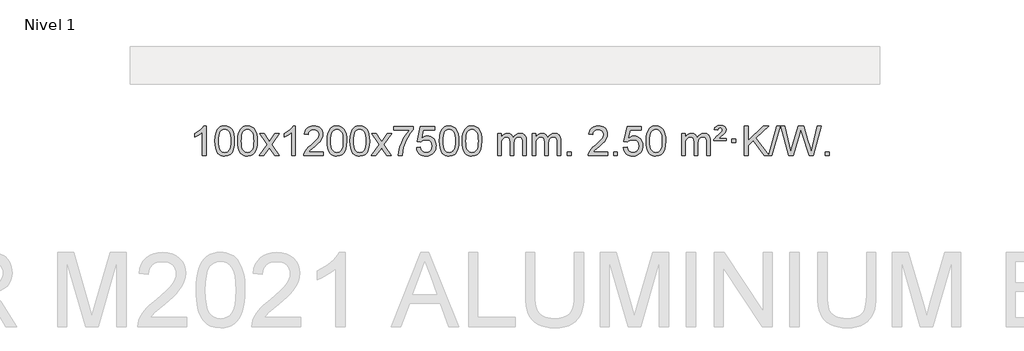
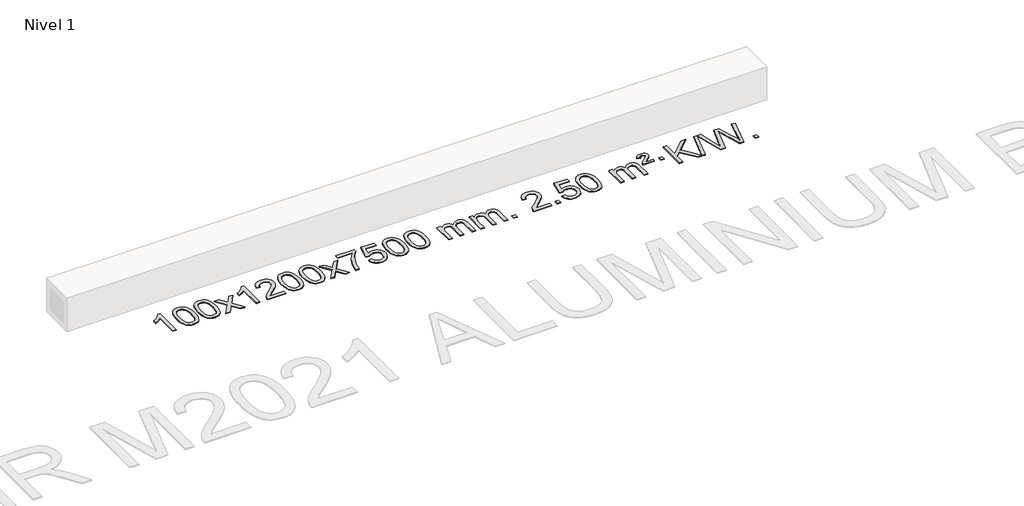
# One storey, part 2 of 3: 1 proxy.
"""IFC4 building model written with IfcOpenShell, lengths in millimetres."""

import ifcopenshell
import ifcopenshell.guid

model = None  # the IFC model being written
_history = None  # IfcOwnerHistory: only IFC2X3 demands one
_inside = {}  # id of a spatial element -> (the spatial element, [elements in it])
_under = {}  # id of a project, library or spatial element -> (it, [spatial elements below it])
_declared = {}  # id of a project -> (the project, [libraries it declares])
_typed = {}  # id of a type object -> (the type object, [elements of that type])
_made_of = {}  # id of a material, layer set ... -> (it, [elements and type objects made of it])


def new_model(schema):
    """Start an empty IFC model of exactly this schema.

    Asked for "IFC4X3", IfcOpenShell would pick the latest addendum, in which some entities
    have other attributes; the version numbers below select the first issue.
    IFC2X3 requires an IfcOwnerHistory on every rooted entity: one is made here for all.
    """
    global model, _history
    if schema == "IFC4X3":
        model = ifcopenshell.file(schema_version=(4, 3, 0, 0))
    else:
        model = ifcopenshell.file(schema=schema)
    _inside.clear()
    _under.clear()
    _declared.clear()
    _typed.clear()
    _made_of.clear()
    _history = None
    if model.schema == "IFC2X3":
        org = make("IfcOrganization", Name="unknown")
        user = make(
            "IfcPersonAndOrganization",
            ThePerson=make("IfcPerson", FamilyName="unknown"),
            TheOrganization=org,
        )
        app = make(
            "IfcApplication",
            ApplicationDeveloper=org,
            Version="unknown",
            ApplicationFullName="unknown",
            ApplicationIdentifier="unknown",
        )
        _history = make(
            "IfcOwnerHistory",
            OwningUser=user,
            OwningApplication=app,
            ChangeAction="ADDED",
            CreationDate=0,
        )
    return model


def make(cls, **values):
    """One entity of the class cls with the attributes given. An attribute that is None is left unset."""
    return model.create_entity(
        cls, **{name: value for name, value in values.items() if value is not None}
    )


def rooted(cls, **values):
    """An entity with a GlobalId (a new one), such as an element, a storey or a relation."""
    return make(cls, GlobalId=ifcopenshell.guid.new(), OwnerHistory=_history, **values)


def si_unit(unit_type, name, prefix=None):
    """IfcSIUnit, for example si_unit("LENGTHUNIT", "METRE", prefix="MILLI")."""
    return make("IfcSIUnit", UnitType=unit_type, Prefix=prefix, Name=name)


def assignment(units):
    """IfcUnitAssignment: the units of a project."""
    return None if units is None else make("IfcUnitAssignment", Units=units)


def point(xyz):
    """IfcCartesianPoint."""
    return None if xyz is None else make("IfcCartesianPoint", Coordinates=xyz)


def direction(xyz):
    """IfcDirection."""
    return None if xyz is None else make("IfcDirection", DirectionRatios=xyz)


def frame(location, z_axis=None, x_axis=None):
    """IfcAxis2Placement3D, a coordinate frame: its origin and axes. An axis left out is left unset."""
    return make(
        "IfcAxis2Placement3D",
        Location=point(location),
        Axis=direction(z_axis),
        RefDirection=direction(x_axis),
    )


def origin():
    """The frame at (0, 0, 0) with its axes left unset."""
    return frame((0.0, 0.0, 0.0))


def origin_with_axes():
    """The frame at (0, 0, 0) with the z axis (0, 0, 1) and the x axis (1, 0, 0) written out."""
    return frame((0.0, 0.0, 0.0), z_axis=(0.0, 0.0, 1.0), x_axis=(1.0, 0.0, 0.0))


def place(relative_to, where):
    """IfcLocalPlacement: puts the frame where relative to a parent placement (None: the world)."""
    return make(
        "IfcLocalPlacement", PlacementRelTo=relative_to, RelativePlacement=where
    )


def context(
    kind, dimensions, precision=None, world=None, true_north=None, identifier=None
):
    """IfcGeometricRepresentationContext, for example the 3D "Model" context."""
    return make(
        "IfcGeometricRepresentationContext",
        ContextIdentifier=identifier,
        ContextType=kind,
        CoordinateSpaceDimension=dimensions,
        Precision=precision,
        WorldCoordinateSystem=world,
        TrueNorth=true_north,
    )


def project(units=None, contexts=None):
    """IfcProject with its units and contexts."""
    return rooted(
        "IfcProject",
        Name="project",
        RepresentationContexts=contexts,
        UnitsInContext=assignment(units),
    )


def spatial(cls, under=None, at=None, **own):
    """A site, building, storey or space (cls), placed at a placement, below another one or the project."""
    s = rooted(cls, ObjectPlacement=at, **own)
    if under is not None:
        _under.setdefault(under.id(), (under, []))[1].append(s)
    return s


def polyline(points):
    """IfcPolyline through the points."""
    return make("IfcPolyline", Points=[point(p) for p in points])


def outline(outer, holes=None, kind="AREA"):
    """IfcArbitraryClosedProfileDef: a profile drawn as a closed curve; with holes, ...WithVoids."""
    if holes is None:
        return make("IfcArbitraryClosedProfileDef", ProfileType=kind, OuterCurve=outer)
    return make(
        "IfcArbitraryProfileDefWithVoids",
        ProfileType=kind,
        OuterCurve=outer,
        InnerCurves=holes,
    )


def extrude(swept, where, along, depth):
    """IfcExtrudedAreaSolid: the profile swept, set in the frame where, extruded along a direction by depth."""
    return make(
        "IfcExtrudedAreaSolid",
        SweptArea=swept,
        Position=where,
        ExtrudedDirection=direction(along),
        Depth=depth,
    )


def shape(context_of_items, identifier, shape_type, items):
    """IfcShapeRepresentation: the items that make up one representation, for example the "Body"."""
    return make(
        "IfcShapeRepresentation",
        ContextOfItems=context_of_items,
        RepresentationIdentifier=identifier,
        RepresentationType=shape_type,
        Items=items,
    )


def made_of(thing, what):
    """Note that an element or type object is made of a material, layer set ...; save() writes the relation."""
    if what is not None:
        _made_of.setdefault(what.id(), (what, []))[1].append(thing)
    return thing


def element(
    cls,
    number,
    at=None,
    inside=None,
    cuts=None,
    type_object=None,
    material=None,
    context=None,
    identifier="Body",
    shape_type=None,
    held_by="IfcProductDefinitionShape",
    body=None,
    shapes=None,
    **own,
):
    """One element of the class cls, such as IfcWall. Its Tag is "e" and its number.

    at: its placement. inside: the storey or other place that contains it. cuts: it is an
    opening in that element (IfcRelVoidsElement). A single representation is given by context,
    identifier, shape_type and body (its items); several are given by shapes. held_by: the class
    of the entity that holds the representations. save() writes the other relations.
    """
    e = rooted(cls, Tag="e%d" % number, ObjectPlacement=at, **own)
    if body is not None:
        shapes = [shape(context, identifier, shape_type, body)]
    if shapes is not None:
        e.Representation = make(held_by, Representations=shapes)
    if inside is not None:
        _inside.setdefault(inside.id(), (inside, []))[1].append(e)
    if cuts is not None:
        rooted(
            "IfcRelVoidsElement", RelatingBuildingElement=cuts, RelatedOpeningElement=e
        )
    if type_object is not None:
        _typed.setdefault(type_object.id(), (type_object, []))[1].append(e)
    return made_of(e, material)


def aggregate(whole, parts):
    """IfcRelAggregates: a whole, such as a stair, and the parts it consists of."""
    return rooted("IfcRelAggregates", RelatingObject=whole, RelatedObjects=parts)


def save(model, path):
    """Write the relations noted so far, then the file.

    IfcRelAggregates (storeys below a building ...), IfcRelContainedInSpatialStructure (elements
    in a storey), IfcRelDefinesByType, IfcRelAssociatesMaterial and IfcRelDeclares: one each for
    every whole, place, type object, material and project.
    """
    for whole, parts in _under.values():
        aggregate(whole, parts)
    for where, things in _inside.values():
        rooted(
            "IfcRelContainedInSpatialStructure",
            RelatedElements=things,
            RelatingStructure=where,
        )
    for kind, things in _typed.values():
        rooted("IfcRelDefinesByType", RelatedObjects=things, RelatingType=kind)
    for what, things in _made_of.values():
        rooted("IfcRelAssociatesMaterial", RelatedObjects=things, RelatingMaterial=what)
    for by, libraries in _declared.values():
        rooted("IfcRelDeclares", RelatingContext=by, RelatedDefinitions=libraries)
    model.write(path)


model = new_model("IFC4")

# Units and contexts
model_context = context("Model", 3, world=origin())
ifc_project = project(units=[si_unit("LENGTHUNIT", "METRE", prefix="MILLI")], contexts=[model_context])

# Site, building, storey
site = spatial("IfcSite", under=ifc_project)
building = spatial("IfcBuilding", under=site)
storey = spatial("IfcBuildingStorey", under=building, Name="Nivel 1", Elevation=0.0)

# Proxy
placement = place(None, origin())
element("IfcBuildingElementProxy", 1, Name="Texto de modelo 1", ObjectType="Texto de modelo 1", at=placement, inside=storey, context=model_context, shape_type="SweptSolid", body=[
    extrude(outline(polyline([(-18976.6113821, -1016.3248037), (-19026.8395372, -1016.3248037), (-19026.8395372, -703.1836494), (-19047.8088109, -720.1430094), (-19074.4189419, -737.0778439), (-19127.2958474, -762.4371761), (-19127.2958474, -714.9558732), (-19087.8466348, -693.4960902), (-19053.6703974, -667.9650797), (-19026.7291726, -640.8153885), (-19008.9849977, -614.4995631), (-18976.6113821, -614.4995631), (-18976.6113821, -1016.3248037)])), origin_with_axes(), (0.0, 0.0, 1.0), 10.0),
    extrude(outline(polyline([(-18857.3195138, -818.649545), (-18853.6284312, -754.3315095), (-18842.5551831, -703.0364966), (-18824.2101343, -663.9796914), (-18812.3520713, -648.7463112), (-18798.7036493, -636.3762791), (-18783.218883, -626.8052158), (-18765.8517871, -619.9687421), (-18725.4706068, -614.4995631), (-18694.5194682, -617.7369247), (-18666.8056913, -627.4490093), (-18643.6291256, -643.2556724), (-18626.2896209, -664.7767691), (-18613.1930218, -691.8283585), (-18602.7451732, -724.2264995), (-18595.9025681, -765.3679693), (-18593.6216997, -818.649545), (-18597.2759942, -882.5996984), (-18608.2388776, -933.772084), (-18626.4735619, -972.8656773), (-18638.3040337, -988.1450429), (-18651.9432587, -1000.5794543), (-18667.4464191, -1010.2148969), (-18684.8686972, -1017.0973559), (-18725.4706068, -1022.6033231), (-18753.1353328, -1020.2120901), (-18777.6607992, -1013.0383912), (-18799.0470058, -1001.0822264), (-18817.2939528, -984.3435956), (-18834.8051357, -954.0853015), (-18847.3131236, -916.3835283), (-18854.8179163, -871.2382762), (-18857.3195138, -818.649545)]), holes=[polyline([(-18807.0913588, -818.5514431), (-18805.6198308, -862.2159702), (-18801.2052468, -897.5602329), (-18793.8476069, -924.5842311), (-18783.5469111, -943.2879649), (-18771.0879742, -956.0136163), (-18757.2556112, -965.1033672), (-18742.049822, -970.5572178), (-18725.4706068, -972.375168), (-18708.8913915, -970.5510864), (-18693.6856024, -965.0788418), (-18679.8532394, -955.958434), (-18667.3943025, -943.1898631), (-18657.0936066, -924.4554724), (-18649.7359667, -897.4376056), (-18645.3213828, -862.1362625), (-18643.8498548, -818.5514431), (-18645.2723318, -776.0426785), (-18649.539763, -741.3207496), (-18656.6521482, -714.3856562), (-18666.6094875, -695.2373983), (-18678.859958, -681.8894132), (-18692.8517365, -672.3551382), (-18708.5848232, -666.6345732), (-18726.059218, -664.7277182), (-18742.5525941, -666.4077126), (-18757.5008658, -671.4476959), (-18770.9040332, -679.8476682), (-18782.7620962, -691.6076293), (-18793.4061486, -712.4542757), (-18801.0090431, -740.5604601), (-18805.5707799, -775.9261826), (-18807.0913588, -818.5514431)])]), origin_with_axes(), (0.0, 0.0, 1.0), 10.0),
    extrude(outline(polyline([(-18549.672064, -818.649545), (-18545.9809813, -754.3315095), (-18534.9077333, -703.0364966), (-18516.5626844, -663.9796914), (-18504.7046215, -648.7463112), (-18491.0561994, -636.3762791), (-18475.5714331, -626.8052158), (-18458.2043373, -619.9687421), (-18417.8231569, -614.4995631), (-18386.8720184, -617.7369247), (-18359.1582414, -627.4490093), (-18335.9816757, -643.2556724), (-18318.642171, -664.7767691), (-18305.545572, -691.8283585), (-18295.0977234, -724.2264995), (-18288.2551182, -765.3679693), (-18285.9742499, -818.649545), (-18289.6285444, -882.5996984), (-18300.5914278, -933.772084), (-18318.826112, -972.8656773), (-18330.6565839, -988.1450429), (-18344.2958088, -1000.5794543), (-18359.7989693, -1010.2148969), (-18377.2212474, -1017.0973559), (-18417.8231569, -1022.6033231), (-18445.487883, -1020.2120901), (-18470.0133493, -1013.0383912), (-18491.399556, -1001.0822264), (-18509.6465029, -984.3435956), (-18527.1576859, -954.0853015), (-18539.6656737, -916.3835283), (-18547.1704664, -871.2382762), (-18549.672064, -818.649545)]), holes=[polyline([(-18499.4439089, -818.5514431), (-18497.972381, -862.2159702), (-18493.557797, -897.5602329), (-18486.2001571, -924.5842311), (-18475.8994612, -943.2879649), (-18463.4405243, -956.0136163), (-18449.6081613, -965.1033672), (-18434.4023722, -970.5572178), (-18417.8231569, -972.375168), (-18401.2439417, -970.5510864), (-18386.0381526, -965.0788418), (-18372.2057895, -955.958434), (-18359.7468526, -943.1898631), (-18349.4461568, -924.4554724), (-18342.0885169, -897.4376056), (-18337.6739329, -862.1362625), (-18336.2024049, -818.5514431), (-18337.624882, -776.0426785), (-18341.8923131, -741.3207496), (-18349.0046984, -714.3856562), (-18358.9620377, -695.2373983), (-18371.2125082, -681.8894132), (-18385.2042867, -672.3551382), (-18400.9373734, -666.6345732), (-18418.4117681, -664.7277182), (-18434.9051443, -666.4077126), (-18449.853416, -671.4476959), (-18463.2565833, -679.8476682), (-18475.1146463, -691.6076293), (-18485.7586987, -712.4542757), (-18493.3615933, -740.5604601), (-18497.92333, -775.9261826), (-18499.4439089, -818.5514431)])]), origin_with_axes(), (0.0, 0.0, 1.0), 10.0),
    extrude(outline(polyline([(-18260.8601723, -1016.3248037), (-18153.5367316, -867.9947832), (-18254.5816529, -721.2343926), (-18194.1509039, -721.2343926), (-18145.3942768, -791.8677357), (-18122.634644, -825.2223699), (-18102.9161691, -797.9500514), (-18047.3905133, -721.2343926), (-17986.9597642, -721.2343926), (-18093.1059825, -867.9947832), (-17990.8838388, -1016.3248037), (-18051.3145879, -1016.3248037), (-18112.8244575, -927.1502081), (-18124.106172, -910.8652984), (-18200.4294233, -1016.3248037), (-18260.8601723, -1016.3248037)])), origin_with_axes(), (0.0, 0.0, 1.0), 10.0),
    extrude(outline(polyline([(-17771.1356604, -1016.3248037), (-17821.3638154, -1016.3248037), (-17821.3638154, -703.1836494), (-17842.3330892, -720.1430094), (-17868.9432201, -737.0778439), (-17921.8201256, -762.4371761), (-17921.8201256, -714.9558732), (-17882.370913, -693.4960902), (-17848.1946756, -667.9650797), (-17821.2534508, -640.8153885), (-17803.5092759, -614.4995631), (-17771.1356604, -614.4995631), (-17771.1356604, -1016.3248037)])), origin_with_axes(), (0.0, 0.0, 1.0), 10.0),
    extrude(outline(polyline([(-17394.4244973, -966.0966486), (-17394.4244973, -1016.3248037), (-17658.1223114, -1016.3248037), (-17657.0186654, -998.6419425), (-17652.7267088, -981.6948452), (-17640.3413483, -954.6309931), (-17622.2170287, -928.3764814), (-17595.9993052, -900.8956963), (-17559.333733, -870.1530243), (-17505.1324524, -822.0095338), (-17472.611684, -786.4721331), (-17456.3512998, -757.6301847), (-17450.9311718, -729.5730512), (-17456.0447315, -704.4221855), (-17471.3854107, -683.5142254), (-17494.9666466, -669.424345), (-17524.8018764, -664.7277182), (-17556.1331596, -669.3139804), (-17580.474685, -683.072767), (-17596.1832462, -704.9249575), (-17601.615637, -733.7914314), (-17651.8437921, -727.512912), (-17647.5242443, -701.5833627), (-17639.666898, -678.9279632), (-17628.2717532, -659.5467134), (-17613.3388099, -643.4396134), (-17595.2114246, -630.7783414), (-17574.2329538, -621.7345757), (-17550.4033976, -616.3083162), (-17523.7227559, -614.4995631), (-17496.8029909, -616.5106513), (-17472.8446759, -622.5439161), (-17451.8478111, -632.5993573), (-17433.8123962, -646.6769749), (-17419.3270427, -663.7344368), (-17408.9803616, -682.7294105), (-17402.7723529, -703.661896), (-17400.7030167, -726.5318934), (-17402.9348341, -750.5545876), (-17409.6302864, -774.160349), (-17421.5128749, -798.1707806), (-17439.3061007, -823.4074854), (-17467.6698025, -853.5370208), (-17511.263819, -892.225944), (-17569.0458177, -940.5411127), (-17591.7073486, -966.0966486), (-17394.4244973, -966.0966486)])), origin_with_axes(), (0.0, 0.0, 1.0), 10.0),
    extrude(outline(polyline([(-17344.1963422, -818.649545), (-17340.5052595, -754.3315095), (-17329.4320115, -703.0364966), (-17311.0869627, -663.9796914), (-17299.2288997, -648.7463112), (-17285.5804777, -636.3762791), (-17270.0957113, -626.8052158), (-17252.7286155, -619.9687421), (-17212.3474351, -614.4995631), (-17181.3962966, -617.7369247), (-17153.6825196, -627.4490093), (-17130.505954, -643.2556724), (-17113.1664492, -664.7767691), (-17100.0698502, -691.8283585), (-17089.6220016, -724.2264995), (-17082.7793964, -765.3679693), (-17080.4985281, -818.649545), (-17084.1528226, -882.5996984), (-17095.115706, -933.772084), (-17113.3503902, -972.8656773), (-17125.1808621, -988.1450429), (-17138.820087, -1000.5794543), (-17154.3232475, -1010.2148969), (-17171.7455256, -1017.0973559), (-17212.3474351, -1022.6033231), (-17240.0121612, -1020.2120901), (-17264.5376275, -1013.0383912), (-17285.9238342, -1001.0822264), (-17304.1707811, -984.3435956), (-17321.6819641, -954.0853015), (-17334.1899519, -916.3835283), (-17341.6947446, -871.2382762), (-17344.1963422, -818.649545)]), holes=[polyline([(-17293.9681871, -818.5514431), (-17292.4966592, -862.2159702), (-17288.0820752, -897.5602329), (-17280.7244353, -924.5842311), (-17270.4237395, -943.2879649), (-17257.9648025, -956.0136163), (-17244.1324395, -965.1033672), (-17228.9266504, -970.5572178), (-17212.3474351, -972.375168), (-17195.7682199, -970.5510864), (-17180.5624308, -965.0788418), (-17166.7300677, -955.958434), (-17154.2711308, -943.1898631), (-17143.970435, -924.4554724), (-17136.6127951, -897.4376056), (-17132.1982111, -862.1362625), (-17130.7266831, -818.5514431), (-17132.1491602, -776.0426785), (-17136.4165913, -741.3207496), (-17143.5289766, -714.3856562), (-17153.4863159, -695.2373983), (-17165.7367864, -681.8894132), (-17179.7285649, -672.3551382), (-17195.4616516, -666.6345732), (-17212.9360463, -664.7277182), (-17229.4294225, -666.4077126), (-17244.3776942, -671.4476959), (-17257.7808616, -679.8476682), (-17269.6389245, -691.6076293), (-17280.2829769, -712.4542757), (-17287.8858715, -740.5604601), (-17292.4476082, -775.9261826), (-17293.9681871, -818.5514431)])]), origin_with_axes(), (0.0, 0.0, 1.0), 10.0),
    extrude(outline(polyline([(-17036.5488924, -818.649545), (-17032.8578097, -754.3315095), (-17021.7845616, -703.0364966), (-17003.4395128, -663.9796914), (-16991.5814498, -648.7463112), (-16977.9330278, -636.3762791), (-16962.4482615, -626.8052158), (-16945.0811656, -619.9687421), (-16904.6999853, -614.4995631), (-16873.7488468, -617.7369247), (-16846.0350698, -627.4490093), (-16822.8585041, -643.2556724), (-16805.5189994, -664.7767691), (-16792.4224004, -691.8283585), (-16781.9745517, -724.2264995), (-16775.1319466, -765.3679693), (-16772.8510782, -818.649545), (-16776.5053727, -882.5996984), (-16787.4682562, -933.772084), (-16805.7029404, -972.8656773), (-16817.5334122, -988.1450429), (-16831.1726372, -1000.5794543), (-16846.6757976, -1010.2148969), (-16864.0980758, -1017.0973559), (-16904.6999853, -1022.6033231), (-16932.3647113, -1020.2120901), (-16956.8901777, -1013.0383912), (-16978.2763843, -1001.0822264), (-16996.5233313, -984.3435956), (-17014.0345143, -954.0853015), (-17026.5425021, -916.3835283), (-17034.0472948, -871.2382762), (-17036.5488924, -818.649545)]), holes=[polyline([(-16986.3207373, -818.5514431), (-16984.8492093, -862.2159702), (-16980.4346254, -897.5602329), (-16973.0769855, -924.5842311), (-16962.7762896, -943.2879649), (-16950.3173527, -956.0136163), (-16936.4849897, -965.1033672), (-16921.2792006, -970.5572178), (-16904.6999853, -972.375168), (-16888.1207701, -970.5510864), (-16872.9149809, -965.0788418), (-16859.0826179, -955.958434), (-16846.623681, -943.1898631), (-16836.3229851, -924.4554724), (-16828.9653452, -897.4376056), (-16824.5507613, -862.1362625), (-16823.0792333, -818.5514431), (-16824.5017104, -776.0426785), (-16828.7691415, -741.3207496), (-16835.8815267, -714.3856562), (-16845.8388661, -695.2373983), (-16858.0893365, -681.8894132), (-16872.0811151, -672.3551382), (-16887.8142017, -666.6345732), (-16905.2885965, -664.7277182), (-16921.7819726, -666.4077126), (-16936.7302444, -671.4476959), (-16950.1334117, -679.8476682), (-16961.9914747, -691.6076293), (-16972.6355271, -712.4542757), (-16980.2384217, -740.5604601), (-16984.8001584, -775.9261826), (-16986.3207373, -818.5514431)])]), origin_with_axes(), (0.0, 0.0, 1.0), 10.0),
    extrude(outline(polyline([(-16747.7370007, -1016.3248037), (-16640.41356, -867.9947832), (-16741.4584813, -721.2343926), (-16681.0277322, -721.2343926), (-16632.2711052, -791.8677357), (-16609.5114724, -825.2223699), (-16589.7929974, -797.9500514), (-16534.2673416, -721.2343926), (-16473.8365926, -721.2343926), (-16579.9828109, -867.9947832), (-16477.7606672, -1016.3248037), (-16538.1914163, -1016.3248037), (-16599.7012858, -927.1502081), (-16610.9830004, -910.8652984), (-16687.3062516, -1016.3248037), (-16747.7370007, -1016.3248037)])), origin_with_axes(), (0.0, 0.0, 1.0), 10.0),
    extrude(outline(polyline([(-16446.3680703, -671.0062376), (-16446.3680703, -620.7780825), (-16182.6702561, -620.7780825), (-16182.6702561, -661.3922547), (-16220.2555333, -708.9593967), (-16257.4729285, -769.4514595), (-16290.3002652, -837.350213), (-16314.7153669, -907.1374275), (-16326.6837945, -959.3521454), (-16333.3547213, -1016.3248037), (-16383.5828764, -1016.3248037), (-16378.1504856, -964.5515442), (-16363.6191468, -903.0171492), (-16340.3812674, -837.7916714), (-16308.829255, -774.9451639), (-16271.9920045, -718.1319211), (-16232.8984112, -671.0062376), (-16446.3680703, -671.0062376)])), origin_with_axes(), (0.0, 0.0, 1.0), 10.0),
    extrude(outline(polyline([(-16138.7206204, -909.5899742), (-16088.4924653, -903.3114548), (-16079.27089, -933.4655156), (-16063.1821841, -955.0601888), (-16040.299924, -968.0464232), (-16010.6976861, -972.375168), (-15991.5678224, -970.8699175), (-15974.6943015, -966.354166), (-15960.0771236, -958.8279135), (-15947.7162885, -948.2911601), (-15937.8877079, -935.2650717), (-15930.8672931, -920.2708148), (-15925.2509614, -884.3777948), (-15930.5116739, -850.5817021), (-15937.0875645, -836.6635), (-15946.2938115, -824.7318606), (-15958.1610715, -815.1607974), (-15972.7200015, -808.3243236), (-16009.9128712, -802.8551446), (-16034.278922, -805.0379111), (-16054.0096597, -811.5862106), (-16069.7672718, -821.6171264), (-16082.213946, -834.2477415), (-16132.442101, -827.9692222), (-16088.4924653, -620.7780825), (-15893.8583644, -620.7780825), (-15893.8583644, -671.0062376), (-16047.8782931, -671.0062376), (-16069.3626016, -781.6651417), (-16051.6368208, -768.9609501), (-16033.4818443, -759.8865276), (-16014.8976722, -754.4418741), (-15995.8843044, -752.6269896), (-15971.4232174, -754.8772011), (-15948.9548246, -761.6278357), (-15928.4791259, -772.8788934), (-15909.9961213, -788.6303741), (-15894.695296, -807.9196534), (-15883.766135, -829.7841067), (-15877.2086385, -854.2237339), (-15875.0228063, -881.2385351), (-15876.990975, -907.2600549), (-15882.895481, -931.4666901), (-15892.7363243, -953.8584409), (-15906.5135051, -974.4353072), (-15927.3846769, -995.5088141), (-15951.738465, -1010.5613191), (-15979.5748693, -1019.5928221), (-16010.8938898, -1022.6033231), (-16036.8142421, -1020.6688769), (-16060.2268654, -1014.8655384), (-16081.1317598, -1005.1933077), (-16099.5289252, -991.6521846), (-16114.8358819, -974.9166195), (-16126.47015, -955.6610627), (-16134.4317295, -933.8855143), (-16138.7206204, -909.5899742)])), origin_with_axes(), (0.0, 0.0, 1.0), 10.0),
    extrude(outline(polyline([(-15831.0731706, -818.649545), (-15827.3820879, -754.3315095), (-15816.3088398, -703.0364966), (-15797.963791, -663.9796914), (-15786.105728, -648.7463112), (-15772.457306, -636.3762791), (-15756.9725397, -626.8052158), (-15739.6054439, -619.9687421), (-15699.2242635, -614.4995631), (-15668.273125, -617.7369247), (-15640.559348, -627.4490093), (-15617.3827823, -643.2556724), (-15600.0432776, -664.7767691), (-15586.9466786, -691.8283585), (-15576.4988299, -724.2264995), (-15569.6562248, -765.3679693), (-15567.3753564, -818.649545), (-15571.0296509, -882.5996984), (-15581.9925344, -933.772084), (-15600.2272186, -972.8656773), (-15612.0576904, -988.1450429), (-15625.6969154, -1000.5794543), (-15641.2000758, -1010.2148969), (-15658.622354, -1017.0973559), (-15699.2242635, -1022.6033231), (-15726.8889896, -1020.2120901), (-15751.4144559, -1013.0383912), (-15772.8006626, -1001.0822264), (-15791.0476095, -984.3435956), (-15808.5587925, -954.0853015), (-15821.0667803, -916.3835283), (-15828.571573, -871.2382762), (-15831.0731706, -818.649545)]), holes=[polyline([(-15780.8450155, -818.5514431), (-15779.3734875, -862.2159702), (-15774.9589036, -897.5602329), (-15767.6012637, -924.5842311), (-15757.3005678, -943.2879649), (-15744.8416309, -956.0136163), (-15731.0092679, -965.1033672), (-15715.8034788, -970.5572178), (-15699.2242635, -972.375168), (-15682.6450483, -970.5510864), (-15667.4392591, -965.0788418), (-15653.6068961, -955.958434), (-15641.1479592, -943.1898631), (-15630.8472633, -924.4554724), (-15623.4896234, -897.4376056), (-15619.0750395, -862.1362625), (-15617.6035115, -818.5514431), (-15619.0259886, -776.0426785), (-15623.2934197, -741.3207496), (-15630.405805, -714.3856562), (-15640.3631443, -695.2373983), (-15652.6136147, -681.8894132), (-15666.6053933, -672.3551382), (-15682.3384799, -666.6345732), (-15699.8128747, -664.7277182), (-15716.3062508, -666.4077126), (-15731.2545226, -671.4476959), (-15744.6576899, -679.8476682), (-15756.5157529, -691.6076293), (-15767.1598053, -712.4542757), (-15774.7626999, -740.5604601), (-15779.3244366, -775.9261826), (-15780.8450155, -818.5514431)])]), origin_with_axes(), (0.0, 0.0, 1.0), 10.0),
    extrude(outline(polyline([(-15523.4257208, -818.649545), (-15519.7346381, -754.3315095), (-15508.66139, -703.0364966), (-15490.3163412, -663.9796914), (-15478.4582782, -648.7463112), (-15464.8098562, -636.3762791), (-15449.3250899, -626.8052158), (-15431.957994, -619.9687421), (-15391.5768137, -614.4995631), (-15360.6256752, -617.7369247), (-15332.9118982, -627.4490093), (-15309.7353325, -643.2556724), (-15292.3958278, -664.7767691), (-15279.2992288, -691.8283585), (-15268.8513801, -724.2264995), (-15262.008775, -765.3679693), (-15259.7279066, -818.649545), (-15263.3822011, -882.5996984), (-15274.3450846, -933.772084), (-15292.5797688, -972.8656773), (-15304.4102406, -988.1450429), (-15318.0494656, -1000.5794543), (-15333.552626, -1010.2148969), (-15350.9749041, -1017.0973559), (-15391.5768137, -1022.6033231), (-15419.2415397, -1020.2120901), (-15443.7670061, -1013.0383912), (-15465.1532127, -1001.0822264), (-15483.4001597, -984.3435956), (-15500.9113427, -954.0853015), (-15513.4193305, -916.3835283), (-15520.9241232, -871.2382762), (-15523.4257208, -818.649545)]), holes=[polyline([(-15473.1975657, -818.5514431), (-15471.7260377, -862.2159702), (-15467.3114538, -897.5602329), (-15459.9538139, -924.5842311), (-15449.653118, -943.2879649), (-15437.1941811, -956.0136163), (-15423.3618181, -965.1033672), (-15408.1560289, -970.5572178), (-15391.5768137, -972.375168), (-15374.9975984, -970.5510864), (-15359.7918093, -965.0788418), (-15345.9594463, -955.958434), (-15333.5005094, -943.1898631), (-15323.1998135, -924.4554724), (-15315.8421736, -897.4376056), (-15311.4275897, -862.1362625), (-15309.9560617, -818.5514431), (-15311.3785387, -776.0426785), (-15315.6459699, -741.3207496), (-15322.7583551, -714.3856562), (-15332.7156945, -695.2373983), (-15344.9661649, -681.8894132), (-15358.9579434, -672.3551382), (-15374.6910301, -666.6345732), (-15392.1654249, -664.7277182), (-15408.658801, -666.4077126), (-15423.6070727, -671.4476959), (-15437.0102401, -679.8476682), (-15448.8683031, -691.6076293), (-15459.5123555, -712.4542757), (-15467.11525, -740.5604601), (-15471.6769868, -775.9261826), (-15473.1975657, -818.5514431)])]), origin_with_axes(), (0.0, 0.0, 1.0), 10.0),
    extrude(outline(polyline([(-15046.2582475, -1016.3248037), (-15046.2582475, -721.2343926), (-14996.0300925, -721.2343926), (-14996.0300925, -769.794816), (-14980.9224052, -747.4889044), (-14961.4982359, -730.0145096), (-14938.419772, -718.7205323), (-14912.3492013, -714.9558732), (-14884.4146951, -718.7941087), (-14862.0229444, -730.3088152), (-14845.2965763, -748.7397031), (-14834.3582183, -773.3264831), (-14816.0499577, -747.7893413), (-14795.1665231, -729.5485257), (-14771.7079145, -718.6040364), (-14745.674132, -714.9558732), (-14725.5663153, -716.4733865), (-14707.9171766, -721.0259262), (-14692.7267159, -728.6134923), (-14679.9949331, -739.2360849), (-14669.9302949, -753.0163313), (-14662.7412676, -770.0768589), (-14658.4278512, -790.4176675), (-14656.9900457, -814.0387573), (-14656.9900457, -1016.3248037), (-14707.2182008, -1016.3248037), (-14707.2182008, -835.6211677), (-14708.3831604, -810.5684038), (-14711.8780394, -793.6826202), (-14718.4263389, -782.1188628), (-14728.7515602, -773.0321776), (-14742.0321003, -767.1460656), (-14757.4463559, -765.1840283), (-14784.6573608, -770.2117489), (-14806.8406451, -785.2949107), (-14815.4460181, -796.8647995), (-14821.5927131, -811.4635833), (-14826.5100691, -849.7478363), (-14826.5100691, -1016.3248037), (-14876.7382242, -1016.3248037), (-14876.7382242, -830.0293613), (-14879.6444919, -801.6288713), (-14888.3632952, -781.3708361), (-14903.7039744, -769.2307303), (-14926.4758699, -765.1840283), (-14945.8264629, -767.8818296), (-14963.6564769, -775.9752335), (-14978.3717567, -789.2680363), (-14988.378147, -807.5640342), (-14994.1171061, -832.9478918), (-14996.0300925, -867.5042739), (-14996.0300925, -1016.3248037), (-15046.2582475, -1016.3248037)])), origin_with_axes(), (0.0, 0.0, 1.0), 10.0),
    extrude(outline(polyline([(-14581.6478131, -1016.3248037), (-14581.6478131, -721.2343926), (-14531.419658, -721.2343926), (-14531.419658, -769.794816), (-14516.3119708, -747.4889044), (-14496.8878014, -730.0145096), (-14473.8093376, -718.7205323), (-14447.7387669, -714.9558732), (-14419.8042607, -718.7941087), (-14397.4125099, -730.3088152), (-14380.6861419, -748.7397031), (-14369.7477839, -773.3264831), (-14351.4395233, -747.7893413), (-14330.5560887, -729.5485257), (-14307.0974801, -718.6040364), (-14281.0636976, -714.9558732), (-14260.9558809, -716.4733865), (-14243.3067421, -721.0259262), (-14228.1162814, -728.6134923), (-14215.3844987, -739.2360849), (-14205.3198605, -753.0163313), (-14198.1308331, -770.0768589), (-14193.8174167, -790.4176675), (-14192.3796113, -814.0387573), (-14192.3796113, -1016.3248037), (-14242.6077663, -1016.3248037), (-14242.6077663, -835.6211677), (-14243.772726, -810.5684038), (-14247.267605, -793.6826202), (-14253.8159045, -782.1188628), (-14264.1411258, -773.0321776), (-14277.4216658, -767.1460656), (-14292.8359214, -765.1840283), (-14320.0469263, -770.2117489), (-14342.2302106, -785.2949107), (-14350.8355836, -796.8647995), (-14356.9822786, -811.4635833), (-14361.8996347, -849.7478363), (-14361.8996347, -1016.3248037), (-14412.1277897, -1016.3248037), (-14412.1277897, -830.0293613), (-14415.0340575, -801.6288713), (-14423.7528608, -781.3708361), (-14439.09354, -769.2307303), (-14461.8654355, -765.1840283), (-14481.2160284, -767.8818296), (-14499.0460425, -775.9752335), (-14513.7613223, -789.2680363), (-14523.7677125, -807.5640342), (-14529.5066717, -832.9478918), (-14531.419658, -867.5042739), (-14531.419658, -1016.3248037), (-14581.6478131, -1016.3248037)])), origin_with_axes(), (0.0, 0.0, 1.0), 10.0),
    extrude(outline(polyline([(-14104.4803399, -1016.3248037), (-14104.4803399, -966.0966486), (-14054.2521848, -966.0966486), (-14054.2521848, -1016.3248037), (-14104.4803399, -1016.3248037)])), origin_with_axes(), (0.0, 0.0, 1.0), 10.0),
    extrude(outline(polyline([(-13558.2491535, -966.0966486), (-13558.2491535, -1016.3248037), (-13821.9469676, -1016.3248037), (-13820.8433216, -998.6419425), (-13816.551365, -981.6948452), (-13804.1660045, -954.6309931), (-13786.0416849, -928.3764814), (-13759.8239613, -900.8956963), (-13723.1583892, -870.1530243), (-13668.9571085, -822.0095338), (-13636.4363402, -786.4721331), (-13620.175956, -757.6301847), (-13614.7558279, -729.5730512), (-13619.8693876, -704.4221855), (-13635.2100668, -683.5142254), (-13658.7913027, -669.424345), (-13688.6265325, -664.7277182), (-13719.9578158, -669.3139804), (-13744.2993411, -683.072767), (-13760.0079023, -704.9249575), (-13765.4402931, -733.7914314), (-13815.6684482, -727.512912), (-13811.3489005, -701.5833627), (-13803.4915542, -678.9279632), (-13792.0964094, -659.5467134), (-13777.1634661, -643.4396134), (-13759.0360807, -630.7783414), (-13738.05761, -621.7345757), (-13714.2280537, -616.3083162), (-13687.547412, -614.4995631), (-13660.627647, -616.5106513), (-13636.6693321, -622.5439161), (-13615.6724672, -632.5993573), (-13597.6370524, -646.6769749), (-13583.1516988, -663.7344368), (-13572.8050177, -682.7294105), (-13566.5970091, -703.661896), (-13564.5276728, -726.5318934), (-13566.7594903, -750.5545876), (-13573.4549426, -774.160349), (-13585.337531, -798.1707806), (-13603.1307569, -823.4074854), (-13631.4944587, -853.5370208), (-13675.0884751, -892.225944), (-13732.8704738, -940.5411127), (-13755.5320047, -966.0966486), (-13558.2491535, -966.0966486)])), origin_with_axes(), (0.0, 0.0, 1.0), 10.0),
    extrude(outline(polyline([(-13482.9069208, -1016.3248037), (-13482.9069208, -966.0966486), (-13432.6787658, -966.0966486), (-13432.6787658, -1016.3248037), (-13482.9069208, -1016.3248037)])), origin_with_axes(), (0.0, 0.0, 1.0), 10.0),
    extrude(outline(polyline([(-13351.0580138, -909.5899742), (-13300.8298587, -903.3114548), (-13291.6082833, -933.4655156), (-13275.5195774, -955.0601888), (-13252.6373173, -968.0464232), (-13223.0350794, -972.375168), (-13203.9052157, -970.8699175), (-13187.0316949, -966.354166), (-13172.4145169, -958.8279135), (-13160.0536819, -948.2911601), (-13150.2251012, -935.2650717), (-13143.2046865, -920.2708148), (-13137.5883547, -884.3777948), (-13142.8490672, -850.5817021), (-13149.4249579, -836.6635), (-13158.6312048, -824.7318606), (-13170.4984649, -815.1607974), (-13185.0573948, -808.3243236), (-13222.2502645, -802.8551446), (-13246.6163153, -805.0379111), (-13266.347053, -811.5862106), (-13282.1046651, -821.6171264), (-13294.5513393, -834.2477415), (-13344.7794944, -827.9692222), (-13300.8298587, -620.7780825), (-13106.1957578, -620.7780825), (-13106.1957578, -671.0062376), (-13260.2156864, -671.0062376), (-13281.6999949, -781.6651417), (-13263.9742141, -768.9609501), (-13245.8192377, -759.8865276), (-13227.2350656, -754.4418741), (-13208.2216978, -752.6269896), (-13183.7606108, -754.8772011), (-13161.2922179, -761.6278357), (-13140.8165192, -772.8788934), (-13122.3335146, -788.6303741), (-13107.0326893, -807.9196534), (-13096.1035284, -829.7841067), (-13089.5460318, -854.2237339), (-13087.3601996, -881.2385351), (-13089.3283683, -907.2600549), (-13095.2328743, -931.4666901), (-13105.0737177, -953.8584409), (-13118.8508984, -974.4353072), (-13139.7220703, -995.5088141), (-13164.0758584, -1010.5613191), (-13191.9122627, -1019.5928221), (-13223.2312832, -1022.6033231), (-13249.1516354, -1020.6688769), (-13272.5642587, -1014.8655384), (-13293.4691531, -1005.1933077), (-13311.8663186, -991.6521846), (-13327.1732752, -974.9166195), (-13338.8075433, -955.6610627), (-13346.7691228, -933.8855143), (-13351.0580138, -909.5899742)])), origin_with_axes(), (0.0, 0.0, 1.0), 10.0),
    extrude(outline(polyline([(-13043.4105639, -818.649545), (-13039.7194813, -754.3315095), (-13028.6462332, -703.0364966), (-13010.3011844, -663.9796914), (-12998.4431214, -648.7463112), (-12984.7946994, -636.3762791), (-12969.3099331, -626.8052158), (-12951.9428372, -619.9687421), (-12911.5616569, -614.4995631), (-12880.6105183, -617.7369247), (-12852.8967414, -627.4490093), (-12829.7201757, -643.2556724), (-12812.380671, -664.7767691), (-12799.2840719, -691.8283585), (-12788.8362233, -724.2264995), (-12781.9936182, -765.3679693), (-12779.7127498, -818.649545), (-12783.3670443, -882.5996984), (-12794.3299277, -933.772084), (-12812.564612, -972.8656773), (-12824.3950838, -988.1450429), (-12838.0343088, -1000.5794543), (-12853.5374692, -1010.2148969), (-12870.9597473, -1017.0973559), (-12911.5616569, -1022.6033231), (-12939.2263829, -1020.2120901), (-12963.7518492, -1013.0383912), (-12985.1380559, -1001.0822264), (-13003.3850029, -984.3435956), (-13020.8961858, -954.0853015), (-13033.4041737, -916.3835283), (-13040.9089664, -871.2382762), (-13043.4105639, -818.649545)]), holes=[polyline([(-12993.1824089, -818.5514431), (-12991.7108809, -862.2159702), (-12987.2962969, -897.5602329), (-12979.938657, -924.5842311), (-12969.6379612, -943.2879649), (-12957.1790243, -956.0136163), (-12943.3466612, -965.1033672), (-12928.1408721, -970.5572178), (-12911.5616569, -972.375168), (-12894.9824416, -970.5510864), (-12879.7766525, -965.0788418), (-12865.9442895, -955.958434), (-12853.4853526, -943.1898631), (-12843.1846567, -924.4554724), (-12835.8270168, -897.4376056), (-12831.4124328, -862.1362625), (-12829.9409049, -818.5514431), (-12831.3633819, -776.0426785), (-12835.6308131, -741.3207496), (-12842.7431983, -714.3856562), (-12852.7005376, -695.2373983), (-12864.9510081, -681.8894132), (-12878.9427866, -672.3551382), (-12894.6758733, -666.6345732), (-12912.1502681, -664.7277182), (-12928.6436442, -666.4077126), (-12943.5919159, -671.4476959), (-12956.9950833, -679.8476682), (-12968.8531462, -691.6076293), (-12979.4971986, -712.4542757), (-12987.1000932, -740.5604601), (-12991.6618299, -775.9261826), (-12993.1824089, -818.5514431)])]), origin_with_axes(), (0.0, 0.0, 1.0), 10.0),
    extrude(outline(polyline([(-12566.2430907, -1016.3248037), (-12566.2430907, -721.2343926), (-12516.0149357, -721.2343926), (-12516.0149357, -769.794816), (-12500.9072484, -747.4889044), (-12481.483079, -730.0145096), (-12458.4046152, -718.7205323), (-12432.3340445, -714.9558732), (-12404.3995383, -718.7941087), (-12382.0077875, -730.3088152), (-12365.2814195, -748.7397031), (-12354.3430615, -773.3264831), (-12336.0348009, -747.7893413), (-12315.1513663, -729.5485257), (-12291.6927577, -718.6040364), (-12265.6589752, -714.9558732), (-12245.5511585, -716.4733865), (-12227.9020198, -721.0259262), (-12212.711559, -728.6134923), (-12199.9797763, -739.2360849), (-12189.9151381, -753.0163313), (-12182.7261108, -770.0768589), (-12178.4126944, -790.4176675), (-12176.9748889, -814.0387573), (-12176.9748889, -1016.3248037), (-12227.203044, -1016.3248037), (-12227.203044, -835.6211677), (-12228.3680036, -810.5684038), (-12231.8628826, -793.6826202), (-12238.4111821, -782.1188628), (-12248.7364034, -773.0321776), (-12262.0169434, -767.1460656), (-12277.431199, -765.1840283), (-12304.642204, -770.2117489), (-12326.8254883, -785.2949107), (-12335.4308613, -796.8647995), (-12341.5775563, -811.4635833), (-12346.4949123, -849.7478363), (-12346.4949123, -1016.3248037), (-12396.7230673, -1016.3248037), (-12396.7230673, -830.0293613), (-12399.6293351, -801.6288713), (-12408.3481384, -781.3708361), (-12423.6888176, -769.2307303), (-12446.4607131, -765.1840283), (-12465.811306, -767.8818296), (-12483.6413201, -775.9752335), (-12498.3565999, -789.2680363), (-12508.3629902, -807.5640342), (-12514.1019493, -832.9478918), (-12516.0149357, -867.5042739), (-12516.0149357, -1016.3248037), (-12566.2430907, -1016.3248037)])), origin_with_axes(), (0.0, 0.0, 1.0), 10.0),
    extrude(outline(polyline([(-12133.0252532, -815.4121834), (-12129.1992805, -799.5932576), (-12120.8606219, -783.7252809), (-12099.3517879, -758.5866779), (-12067.3951053, -730.8483754), (-12023.2492658, -693.4715647), (-12016.1123551, -681.9445955), (-12013.7333849, -670.1233208), (-12015.6218458, -658.0322659), (-12021.2872285, -648.2466048), (-12030.6559567, -641.7718817), (-12043.6544538, -639.6136406), (-12056.0888653, -641.2323214), (-12064.9425586, -646.0883637), (-12071.3682308, -655.5551938), (-12076.5185787, -671.0062376), (-12126.7467338, -664.7277182), (-12115.9064777, -639.5155388), (-12099.2782115, -621.9553049), (-12075.5130346, -611.654609), (-12043.2620464, -608.2210437), (-12007.479391, -612.3535848), (-11982.7331954, -624.751208), (-11968.3122212, -643.0839941), (-11963.5052298, -665.0220238), (-11967.6009827, -687.9288093), (-11979.8882413, -709.5602706), (-12000.4160567, -729.3768475), (-12036.8854251, -757.433981), (-12062.490012, -784.0195865), (-11963.5052298, -784.0195865), (-11963.5052298, -815.4121834), (-12133.0252532, -815.4121834)])), origin_with_axes(), (0.0, 0.0, 1.0), 10.0),
    extrude(outline(polyline([(-11888.1629972, -840.5262609), (-11888.1629972, -790.2981059), (-11837.9348421, -790.2981059), (-11837.9348421, -840.5262609), (-11888.1629972, -840.5262609)])), origin_with_axes(), (0.0, 0.0, 1.0), 10.0),
    extrude(outline(polyline([(-11447.2932142, -1016.3248037), (-11600.7245317, -813.6463498), (-11668.4148188, -878.1973772), (-11668.4148188, -1016.3248037), (-11718.6429738, -1016.3248037), (-11718.6429738, -614.4995631), (-11668.4148188, -614.4995631), (-11668.4148188, -811.1938032), (-11462.4009015, -614.4995631), (-11392.1599659, -614.4995631), (-11565.1135545, -779.7031044), (-11390.4599447, -1010.2802839), (-11279.1466169, -614.4995631), (-11233.8235551, -614.4995631), (-11346.836904, -1016.3248037), (-11385.8814465, -1016.3248037), (-11392.1599659, -1016.3248037), (-11447.2932142, -1016.3248037)])), origin_with_axes(), (0.0, 0.0, 1.0), 10.0),
    extrude(outline(polyline([(-11119.3386782, -1016.3248037), (-11228.9184619, -614.4995631), (-11177.1206769, -614.4995631), (-11113.5506682, -878.5897847), (-11093.9302951, -960.1124348), (-11072.9364959, -888.0075638), (-10993.2777812, -614.4995631), (-10918.6222617, -614.4995631), (-10860.7421611, -812.763433), (-10835.9469146, -886.3398321), (-10817.6754422, -960.1124348), (-10798.6436803, -880.9442295), (-10734.4850603, -614.4995631), (-10682.6872754, -614.4995631), (-10792.3651609, -1016.3248037), (-10846.0268813, -1016.3248037), (-10942.3629131, -706.3229091), (-10955.8028686, -663.0599865), (-10970.9105559, -715.152077), (-11058.7117254, -1016.3248037), (-11119.3386782, -1016.3248037)])), origin_with_axes(), (0.0, 0.0, 1.0), 10.0),
    extrude(outline(polyline([(-10626.180601, -1016.3248037), (-10626.180601, -966.0966486), (-10575.9524459, -966.0966486), (-10575.9524459, -1016.3248037), (-10626.180601, -1016.3248037)])), origin_with_axes(), (0.0, 0.0, 1.0), 10.0),
])

save(model, "model.ifc")
